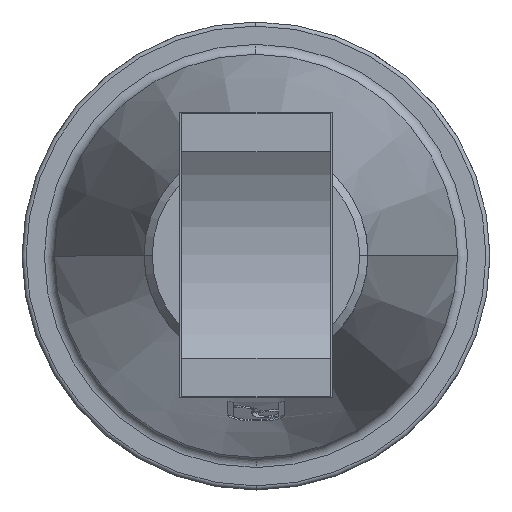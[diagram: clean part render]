
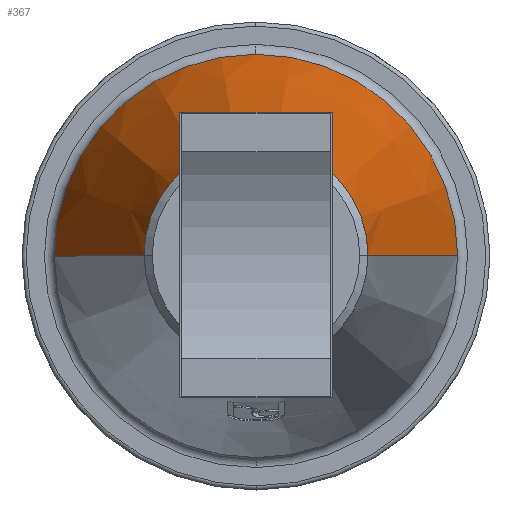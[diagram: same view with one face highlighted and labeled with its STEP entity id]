
A CAD part, top view. The second image highlights one B-rep face of the part: STEP entity #367.
In plain terms, the highlighted conical face has half-angle 12.633 degrees and reference radius 77.092 mm.
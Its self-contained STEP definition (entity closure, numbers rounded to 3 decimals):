
#367=ADVANCED_FACE('',(#735),#736,.T.);
#735=FACE_OUTER_BOUND('',#1137,.T.);
#736=CONICAL_SURFACE('',#1138,77.092,0.22);
#1137=EDGE_LOOP('',(#1986,#1987,#1988,#1989,#1990));
#1138=AXIS2_PLACEMENT_3D('',#1991,#1992,#1993);
#1986=ORIENTED_EDGE('',*,*,#2479,.T.);
#1987=ORIENTED_EDGE('',*,*,#2595,.F.);
#1988=ORIENTED_EDGE('',*,*,#2448,.F.);
#1989=ORIENTED_EDGE('',*,*,#2481,.T.);
#1990=ORIENTED_EDGE('',*,*,#2596,.T.);
#1991=CARTESIAN_POINT('',(459.379,561.874,-77.868));
#1992=DIRECTION('',(0.,0.,-1.0));
#1993=DIRECTION('',(1.,0.001,0.));
#2448=EDGE_CURVE('',#2916,#2918,#2919,.T.);
#2479=EDGE_CURVE('',#2972,#2973,#2974,.T.);
#2481=EDGE_CURVE('',#2916,#2975,#2977,.T.);
#2595=EDGE_CURVE('',#2918,#2973,#3150,.T.);
#2596=EDGE_CURVE('',#2975,#2972,#3151,.T.);
#2916=VERTEX_POINT('',#3654);
#2918=VERTEX_POINT('',#3656);
#2919=CIRCLE('',#3657,99.123);
#2972=VERTEX_POINT('',#3798);
#2973=VERTEX_POINT('',#3799);
#2974=LINE('',#3800,#3801);
#2975=VERTEX_POINT('',#3802);
#2977=LINE('',#3804,#3805);
#3150=CIRCLE('',#4418,99.123);
#3151=CIRCLE('',#4419,55.061);
#3654=CARTESIAN_POINT('',(360.256,561.761,-176.16));
#3656=CARTESIAN_POINT('',(459.266,660.997,-176.16));
#3657=AXIS2_PLACEMENT_3D('',#4773,#4774,#4775);
#3798=CARTESIAN_POINT('',(514.44,561.937,20.425));
#3799=CARTESIAN_POINT('',(558.501,561.987,-176.16));
#3800=CARTESIAN_POINT('',(536.47,561.962,-77.868));
#3801=VECTOR('',#4823,1.0);
#3802=CARTESIAN_POINT('',(404.318,561.812,20.425));
#3804=CARTESIAN_POINT('',(382.287,561.786,-77.868));
#3805=VECTOR('',#4827,1.0);
#4418=AXIS2_PLACEMENT_3D('',#4934,#4935,#4936);
#4419=AXIS2_PLACEMENT_3D('',#4937,#4938,#4939);
#4773=CARTESIAN_POINT('',(459.379,561.874,-176.16));
#4774=DIRECTION('',(0.,0.,-1.0));
#4775=DIRECTION('',(1.,0.001,0.));
#4823=DIRECTION('',(0.219,0.,-0.976));
#4827=DIRECTION('',(0.219,0.,0.976));
#4934=CARTESIAN_POINT('',(459.379,561.874,-176.16));
#4935=DIRECTION('',(0.,0.,-1.0));
#4936=DIRECTION('',(1.,0.001,0.));
#4937=CARTESIAN_POINT('',(459.379,561.874,20.425));
#4938=DIRECTION('',(0.,0.,-1.0));
#4939=DIRECTION('',(1.,0.001,0.));
